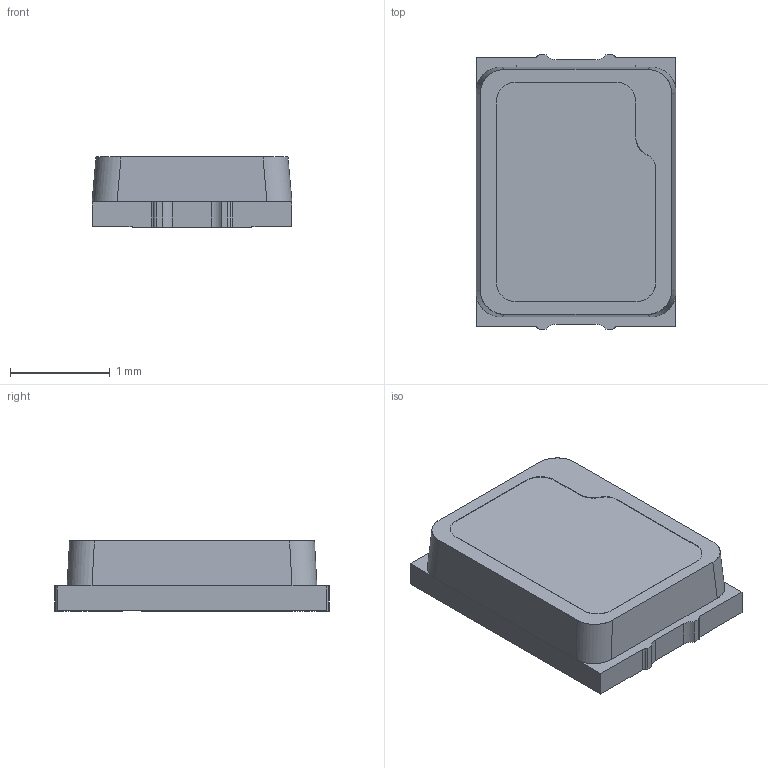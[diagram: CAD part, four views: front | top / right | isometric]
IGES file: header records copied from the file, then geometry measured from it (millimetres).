
Start section: 3D InterOp IGES (Version 20 0 3), Spatial Corp. Copyright (c) 1999-2007.
Global section: file name: SVx-ASS_150726.igs; native system: Spatial Corp.; preprocessor: 3D InterOp ACIS/IGES; author: Noname; organization: Noname; date: 20260720.150820; units: millimetre
Bounding box: 2 x 2.75 x 0.7 mm (x, y, z)
Surface area: 16.7 mm2 (no closed solid volume)
Topology: 0 solids, 0 shells, 82 faces, 480 edges, 480 vertices
Faces by surface type: extrusion 46, revolution 35, bspline 1
